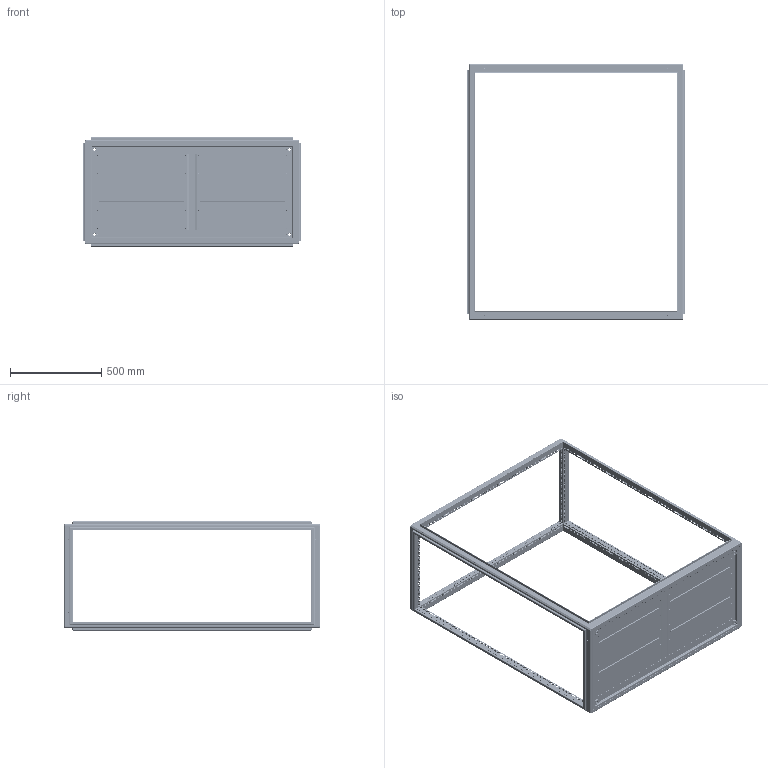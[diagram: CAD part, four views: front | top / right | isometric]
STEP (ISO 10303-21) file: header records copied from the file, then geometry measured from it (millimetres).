
FILE_DESCRIPTION(('STEP AP242'), '1');
FILE_NAME('ÊÑÊ.PRO.S.140.120.60 Êàðêàñ_ñåêöèîíèðîâàíèå', '', ('UNSPECIFIED'), ('UNSPECIFIED'), 'C3D Converter', 'C3D Toolkit', '');
FILE_SCHEMA(('AP242_MANAGED_MODEL_BASED_3D_ENGINEERING_MIM_LF { 1 0 10303 442 1 1 4 }'));
Length unit declared in the file: millimetre
Products named in the file (15): КСК.PRO.S.140.120.60; КСК.PRO.S.120.60; КСК.PRO.140; КСК.PRO.120.60; КСК.PRO.S.140; 2007.120.75; 2007.120.175; 2008.120.200; 2006.60
Assembly tree (37 placements, depth 2):
  КСК.PRO.S.140.120.60
    КСК.PRO.S.120.60
    КСК.PRO.140
    КСК.PRO.120.60
    КСК.PRO.140
    КСК.PRO.S.140
    КСК.PRO.S.140
    2007.120.75
    2007.120.175
    2008.120.200
    2007.120.175
    2008.120.200
    2007.120.75
    (unnamed)  x24
    2006.60
Bounding box: 1197 x 1397 x 597 mm (x, y, z)
Volume: 3747387 mm3; surface area: 5062558 mm2
Topology: 37 solids, 37 shells, 8509 faces, 23789 edges, 15521 vertices
Faces by surface type: plane 5913, cylinder 1964, cone 400, bspline 144, torus 56, sphere 32
Full cylindrical faces by diameter (mm): 3.242 x56, 4.134 x116, 4.5 x1204, 4.8 x24, 6 x56, 6.5 x4, 7 x116, 10.106 x4, 13.835 x4, 14 x4, 21.545 x4
Entity records: 286607 total; most frequent: CARTESIAN_POINT 45892, ORIENTED_EDGE 41174, DIRECTION 40072, EDGE_CURVE 20587, LINE 16594, VECTOR 16594, EDGE_LOOP 14764, VERTEX_POINT 14629
